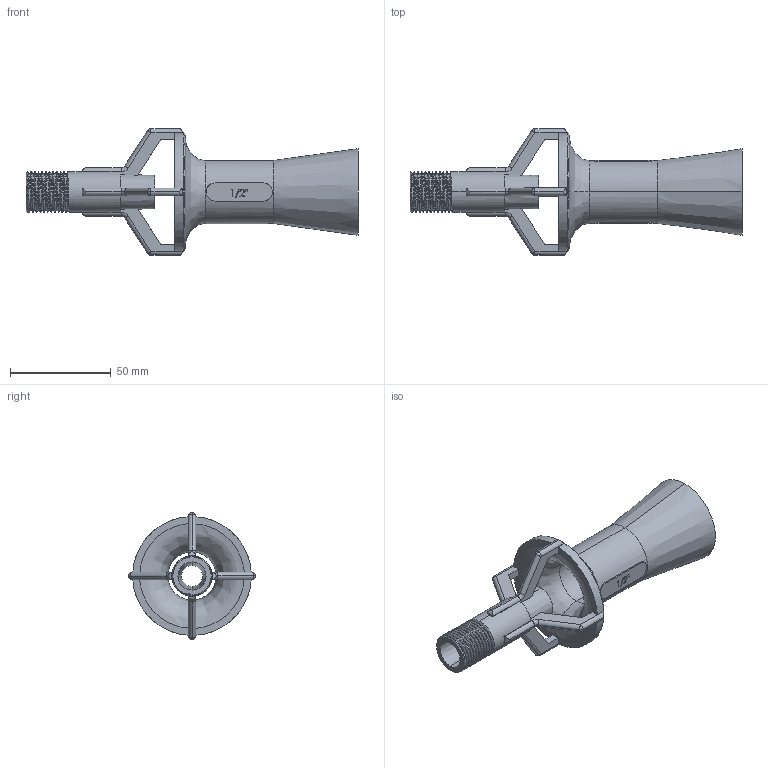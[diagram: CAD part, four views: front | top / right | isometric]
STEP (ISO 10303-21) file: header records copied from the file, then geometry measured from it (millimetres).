
FILE_DESCRIPTION (( 'STEP AP203' ), '1' );
FILE_NAME ('050 TMEEDU.STEP', '2017-05-08T16:53:20', ( '' ), ( '' ), 'SwSTEP 2.0', 'SolidWorks 2016', '' );
FILE_SCHEMA (( 'CONFIG_CONTROL_DESIGN' ));
Length unit declared in the file: millimetre
Products named in the file (1): 050 TMEEDU
Bounding box: 165 x 63 x 63 mm (x, y, z)
Volume: 54734.1 mm3; surface area: 32008.5 mm2
Topology: 1 solids, 1 shells, 331 faces, 882 edges, 563 vertices
Faces by surface type: plane 170, bspline 67, cylinder 66, cone 12, torus 8, sphere 8
Entity records: 16197 total; most frequent: CARTESIAN_POINT 8566, ORIENTED_EDGE 1748, DIRECTION 1279, EDGE_CURVE 874, VERTEX_POINT 563, LINE 553, VECTOR 553, AXIS2_PLACEMENT_3D 363
